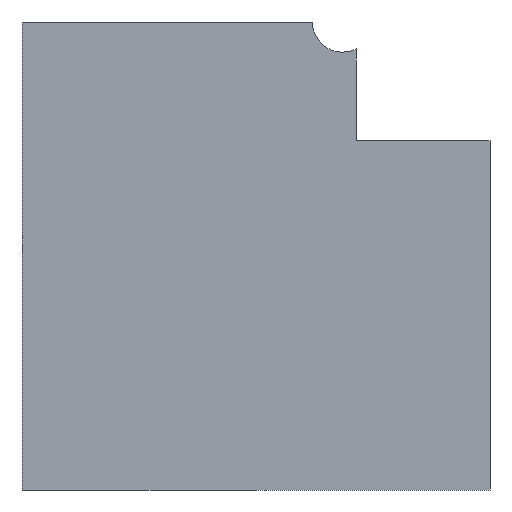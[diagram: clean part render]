
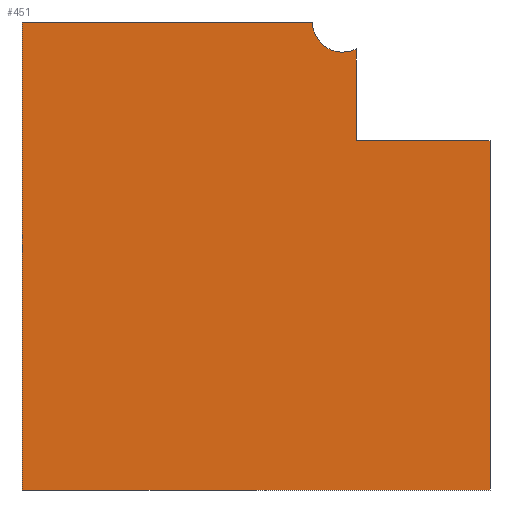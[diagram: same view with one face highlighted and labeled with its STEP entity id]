
A CAD part, left-side view. The second image highlights one B-rep face of the part: STEP entity #451.
In plain terms, the highlighted planar face has unit normal (-1, 0, 0).
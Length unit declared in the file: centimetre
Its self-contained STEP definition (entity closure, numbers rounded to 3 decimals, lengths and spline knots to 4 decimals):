
#12 = CARTESIAN_POINT ( 'NONE',  ( 0., 1000., 0. ) ) ;
#13 = EDGE_CURVE ( 'NONE', #442, #428, #136, .T. ) ;
#15 = DIRECTION ( 'NONE',  ( 1., 0., 0. ) ) ;
#39 = VECTOR ( 'NONE', #351, 100. ) ;
#48 = ORIENTED_EDGE ( 'NONE', *, *, #13, .T. ) ;
#51 = VERTEX_POINT ( 'NONE', #96 ) ;
#70 = VERTEX_POINT ( 'NONE', #373 ) ;
#82 = EDGE_CURVE ( 'NONE', #51, #322, #146, .T. ) ;
#89 = VECTOR ( 'NONE', #389, 100. ) ;
#96 = CARTESIAN_POINT ( 'NONE',  ( 0., 0., 746.0536 ) ) ;
#98 = EDGE_CURVE ( 'NONE', #428, #322, #102, .T. ) ;
#102 = LINE ( 'NONE', #104, #338 ) ;
#104 = CARTESIAN_POINT ( 'NONE',  ( 0., 1000., 0. ) ) ;
#116 = AXIS2_PLACEMENT_3D ( 'NONE', #256, #476, #289 ) ;
#119 = ORIENTED_EDGE ( 'NONE', *, *, #400, .F. ) ;
#120 = CARTESIAN_POINT ( 'NONE',  ( 0., 285.7269, 942.5484 ) ) ;
#127 = CARTESIAN_POINT ( 'NONE',  ( 0., 0., 746.0536 ) ) ;
#136 = LINE ( 'NONE', #238, #207 ) ;
#146 = LINE ( 'NONE', #210, #303 ) ;
#153 = ORIENTED_EDGE ( 'NONE', *, *, #82, .F. ) ;
#154 = VECTOR ( 'NONE', #155, 100. ) ;
#155 = DIRECTION ( 'NONE',  ( 0., 0., -1. ) ) ;
#168 = CARTESIAN_POINT ( 'NONE',  ( 0., 1000., 1000. ) ) ;
#170 = EDGE_CURVE ( 'NONE', #414, #396, #262, .T. ) ;
#191 = LINE ( 'NONE', #345, #154 ) ;
#194 = CARTESIAN_POINT ( 'NONE',  ( 0., 1000., 1000. ) ) ;
#195 = EDGE_LOOP ( 'NONE', ( #460, #468, #119, #48, #385, #153, #232 ) ) ;
#202 = AXIS2_PLACEMENT_3D ( 'NONE', #465, #15, #392 ) ;
#207 = VECTOR ( 'NONE', #278, 100. ) ;
#210 = CARTESIAN_POINT ( 'NONE',  ( 0., 0., 1000. ) ) ;
#215 = CARTESIAN_POINT ( 'NONE',  ( 0., 0., 0. ) ) ;
#232 = ORIENTED_EDGE ( 'NONE', *, *, #459, .F. ) ;
#237 = FACE_OUTER_BOUND ( 'NONE', #195, .T. ) ;
#238 = CARTESIAN_POINT ( 'NONE',  ( 0., 1000., 1000. ) ) ;
#256 = CARTESIAN_POINT ( 'NONE',  ( 0., 314.9288, 1000. ) ) ;
#262 = CIRCLE ( 'NONE', #116, 64.4472 ) ;
#275 = PLANE ( 'NONE',  #202 ) ;
#278 = DIRECTION ( 'NONE',  ( 0., 0., -1. ) ) ;
#289 = DIRECTION ( 'NONE',  ( 0., 0., 1. ) ) ;
#296 = DIRECTION ( 'NONE',  ( 0., -1., 0. ) ) ;
#303 = VECTOR ( 'NONE', #439, 100. ) ;
#318 = CARTESIAN_POINT ( 'NONE',  ( 0., 379.376, 1000. ) ) ;
#322 = VERTEX_POINT ( 'NONE', #215 ) ;
#338 = VECTOR ( 'NONE', #296, 100. ) ;
#345 = CARTESIAN_POINT ( 'NONE',  ( 0., 285.7269, 746.0536 ) ) ;
#351 = DIRECTION ( 'NONE',  ( 0., -1., 0. ) ) ;
#373 = CARTESIAN_POINT ( 'NONE',  ( 0., 285.7269, 746.0536 ) ) ;
#385 = ORIENTED_EDGE ( 'NONE', *, *, #98, .T. ) ;
#389 = DIRECTION ( 'NONE',  ( 0., -1., 0. ) ) ;
#392 = DIRECTION ( 'NONE',  ( 0., 0., -1. ) ) ;
#393 = EDGE_CURVE ( 'NONE', #396, #70, #191, .T. ) ;
#396 = VERTEX_POINT ( 'NONE', #120 ) ;
#400 = EDGE_CURVE ( 'NONE', #442, #414, #415, .T. ) ;
#414 = VERTEX_POINT ( 'NONE', #318 ) ;
#415 = LINE ( 'NONE', #194, #39 ) ;
#428 = VERTEX_POINT ( 'NONE', #12 ) ;
#439 = DIRECTION ( 'NONE',  ( 0., 0., -1. ) ) ;
#442 = VERTEX_POINT ( 'NONE', #168 ) ;
#451 = ADVANCED_FACE ( 'NONE', ( #237 ), #275, .F. ) ;
#459 = EDGE_CURVE ( 'NONE', #70, #51, #461, .T. ) ;
#460 = ORIENTED_EDGE ( 'NONE', *, *, #393, .F. ) ;
#461 = LINE ( 'NONE', #127, #89 ) ;
#465 = CARTESIAN_POINT ( 'NONE',  ( 0., 1000., 1000. ) ) ;
#468 = ORIENTED_EDGE ( 'NONE', *, *, #170, .F. ) ;
#476 = DIRECTION ( 'NONE',  ( -1., 0., 0. ) ) ;
